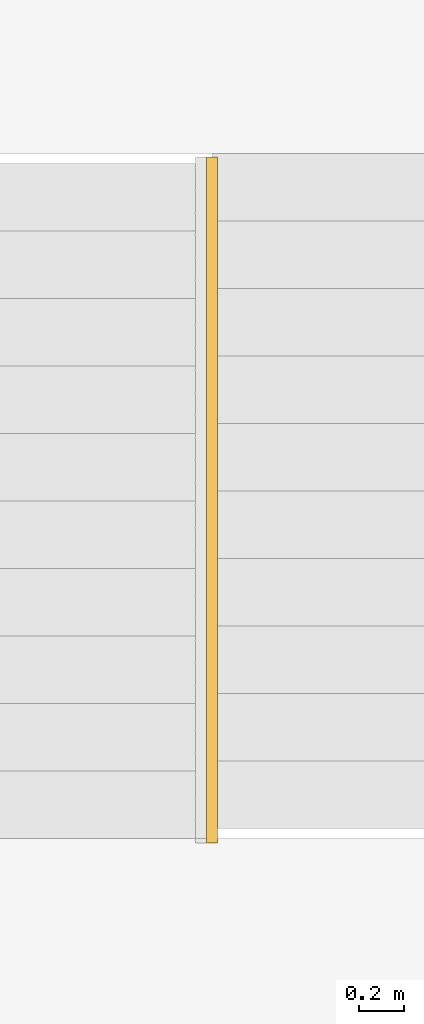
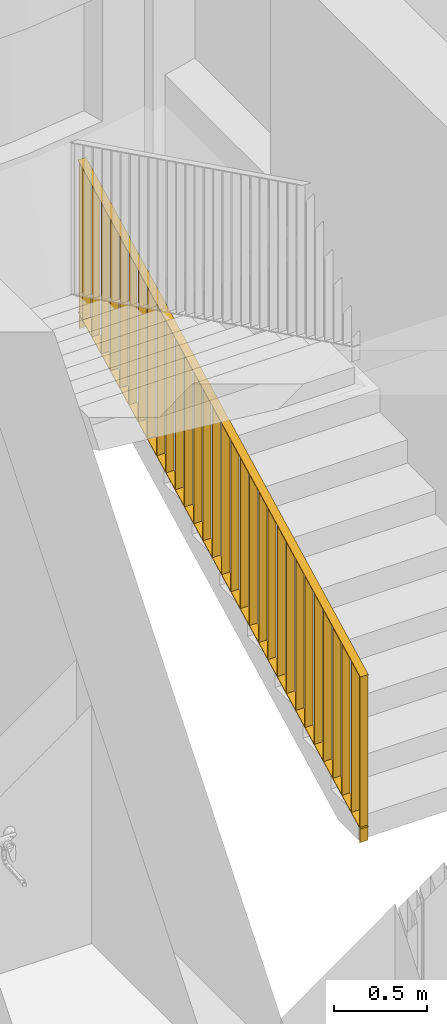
# One storey, part 22 of 46: 1 railing, 1 element without a shape of its own.
"""IFC2X3 building model written with IfcOpenShell, lengths in millimetres."""

from ifc_helpers import new_model, entity, si_unit, converted_unit, derived_unit, direction, frame, origin, place, context, subcontext, project, spatial, polyline, outline, extrude, material, element, aggregate, save


model = new_model("IFC2X3")

# Units and contexts
model_context = context("Model", 3, precision=0.01, world=origin(), true_north=direction((6.12303176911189e-17, 1.0)))
body_context = subcontext(model_context, "Body", "Model", "MODEL_VIEW")
ifc_project = project(units=[si_unit("LENGTHUNIT", "METRE", prefix="MILLI"), si_unit("AREAUNIT", "SQUARE_METRE"), si_unit("VOLUMEUNIT", "CUBIC_METRE"), converted_unit("PLANEANGLEUNIT", "DEGREE", entity("IfcRatioMeasure", 0.0174532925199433), si_unit("PLANEANGLEUNIT", "RADIAN"), dimensions=[0, 0, 0, 0, 0, 0, 0]), si_unit("MASSUNIT", "GRAM", prefix="KILO"), derived_unit("MASSDENSITYUNIT", [(si_unit("MASSUNIT", "GRAM", prefix="KILO"), 1), (si_unit("LENGTHUNIT", "METRE"), -3)]), si_unit("TIMEUNIT", "SECOND"), si_unit("FREQUENCYUNIT", "HERTZ"), si_unit("THERMODYNAMICTEMPERATUREUNIT", "DEGREE_CELSIUS"), derived_unit("THERMALTRANSMITTANCEUNIT", [(si_unit("MASSUNIT", "GRAM", prefix="KILO"), 1), (si_unit("THERMODYNAMICTEMPERATUREUNIT", "KELVIN"), -1), (si_unit("TIMEUNIT", "SECOND"), -3)]), derived_unit("VOLUMETRICFLOWRATEUNIT", [(si_unit("LENGTHUNIT", "METRE"), 3), (si_unit("TIMEUNIT", "SECOND"), -1)]), si_unit("ELECTRICCURRENTUNIT", "AMPERE"), si_unit("ELECTRICVOLTAGEUNIT", "VOLT"), si_unit("POWERUNIT", "WATT"), si_unit("FORCEUNIT", "NEWTON", prefix="KILO"), si_unit("ILLUMINANCEUNIT", "LUX"), si_unit("LUMINOUSFLUXUNIT", "LUMEN"), si_unit("LUMINOUSINTENSITYUNIT", "CANDELA"), derived_unit("USERDEFINED", [(si_unit("MASSUNIT", "GRAM", prefix="KILO"), -1), (si_unit("LENGTHUNIT", "METRE"), -2), (si_unit("TIMEUNIT", "SECOND"), 3), (si_unit("LUMINOUSFLUXUNIT", "LUMEN"), 1)]), derived_unit("LINEARVELOCITYUNIT", [(si_unit("LENGTHUNIT", "METRE"), 1), (si_unit("TIMEUNIT", "SECOND"), -1)]), si_unit("PRESSUREUNIT", "PASCAL"), derived_unit("USERDEFINED", [(si_unit("LENGTHUNIT", "METRE"), -2), (si_unit("MASSUNIT", "GRAM", prefix="KILO"), 1), (si_unit("TIMEUNIT", "SECOND"), -2)]), derived_unit("LINEARFORCEUNIT", [(si_unit("MASSUNIT", "GRAM", prefix="KILO"), 1), (si_unit("LENGTHUNIT", "METRE"), 1), (si_unit("TIMEUNIT", "SECOND"), -2), (si_unit("LENGTHUNIT", "METRE"), -1)]), derived_unit("PLANARFORCEUNIT", [(si_unit("MASSUNIT", "GRAM", prefix="KILO"), 1), (si_unit("LENGTHUNIT", "METRE"), 1), (si_unit("TIMEUNIT", "SECOND"), -2), (si_unit("LENGTHUNIT", "METRE"), -2)])], contexts=[model_context])

# Site, building, storey
site_placement = place(None, origin())
site = spatial("IfcSite", under=ifc_project, at=site_placement, Name="Default", CompositionType="ELEMENT")
building_placement = place(site_placement, origin())
building = spatial("IfcBuilding", under=site, at=building_placement, Name="SMA ARH", CompositionType="ELEMENT")
storey_placement = place(building_placement, origin())
storey = spatial("IfcBuildingStorey", under=building, at=storey_placement, Name="1 Korrus", CompositionType="ELEMENT", Elevation=0.0)

# Stair, railing
stair_placement = place(storey_placement, origin())
stair = element("IfcStair", 1, at=stair_placement, inside=storey, Name="Cast-In-Place Stair:Stair", ObjectType="Cast-In-Place Stair:Cast-In-Place Stair", ShapeType="STRAIGHT_RUN_STAIR")
ifc_material = material(Name="Metal - Stainless Steel,Polished")
railing_placement = place(stair_placement, origin())
railing = element("IfcRailing", 2, at=railing_placement, material=ifc_material, Name="Railing:1000mm_sisearh railing offsetiga", ObjectType="Railing:1000mm_sisearh railing offsetiga", PredefinedType="NOTDEFINED", context=body_context, shape_type="SweptSolid", body=[
    extrude(outline(polyline([(-495.910929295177, -2.5000000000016), (498.471535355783, -2.5000000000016), (495.910929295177, 2.49999999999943), (-498.471535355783, 2.49999999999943), (-495.910929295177, -2.5000000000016)])), frame((10230.0, 12776.2940350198, 2064.56605631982), z_axis=(1.0, 0.0, 0.0), x_axis=(0.0, 0.0, 1.0)), (0.0, 0.0, 1.0), 50.0000000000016),
    extrude(outline(polyline([(-495.910929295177, -2.49999999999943), (498.471535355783, -2.49999999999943), (495.910929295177, 2.5000000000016), (-498.471535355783, 2.5000000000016), (-495.910929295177, -2.49999999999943)])), frame((10230.0, 12676.2940350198, 2013.3539351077), z_axis=(1.0, 0.0, 0.0), x_axis=(0.0, 0.0, 1.0)), (0.0, 0.0, 1.0), 50.0000000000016),
    extrude(outline(polyline([(-495.910929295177, -2.5000000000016), (498.471535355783, -2.5000000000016), (495.910929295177, 2.49999999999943), (-498.471535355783, 2.49999999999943), (-495.910929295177, -2.5000000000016)])), frame((10230.0, 12576.2940350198, 1962.14181389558), z_axis=(1.0, 0.0, 0.0), x_axis=(0.0, 0.0, 1.0)), (0.0, 0.0, 1.0), 50.0000000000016),
    extrude(outline(polyline([(-495.910929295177, -2.49999999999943), (498.471535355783, -2.49999999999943), (495.910929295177, 2.5000000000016), (-498.471535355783, 2.5000000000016), (-495.910929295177, -2.49999999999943)])), frame((10230.0, 12476.2940350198, 1910.92969268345), z_axis=(1.0, 0.0, 0.0), x_axis=(0.0, 0.0, 1.0)), (0.0, 0.0, 1.0), 50.0000000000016),
    extrude(outline(polyline([(-495.910929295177, -2.5000000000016), (498.471535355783, -2.5000000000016), (495.910929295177, 2.49999999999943), (-498.471535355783, 2.49999999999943), (-495.910929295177, -2.5000000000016)])), frame((10230.0, 12376.2940350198, 1859.71757147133), z_axis=(1.0, 0.0, 0.0), x_axis=(0.0, 0.0, 1.0)), (0.0, 0.0, 1.0), 50.0000000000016),
    extrude(outline(polyline([(-495.910929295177, -2.5000000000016), (498.471535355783, -2.5000000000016), (495.910929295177, 2.49999999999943), (-498.471535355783, 2.49999999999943), (-495.910929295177, -2.5000000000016)])), frame((10230.0, 12276.2940350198, 1808.50545025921), z_axis=(1.0, 0.0, 0.0), x_axis=(0.0, 0.0, 1.0)), (0.0, 0.0, 1.0), 50.0000000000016),
    extrude(outline(polyline([(-495.910929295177, -2.49999999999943), (498.471535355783, -2.49999999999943), (495.910929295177, 2.5000000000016), (-498.471535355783, 2.5000000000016), (-495.910929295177, -2.49999999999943)])), frame((10230.0, 12176.2940350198, 1757.29332904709), z_axis=(1.0, 0.0, 0.0), x_axis=(0.0, 0.0, 1.0)), (0.0, 0.0, 1.0), 50.0000000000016),
    extrude(outline(polyline([(-495.910929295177, -2.5000000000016), (498.471535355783, -2.5000000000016), (495.910929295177, 2.49999999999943), (-498.471535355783, 2.49999999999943), (-495.910929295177, -2.5000000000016)])), frame((10230.0, 12076.2940350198, 1706.08120783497), z_axis=(1.0, 0.0, 0.0), x_axis=(0.0, 0.0, 1.0)), (0.0, 0.0, 1.0), 50.0000000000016),
    extrude(outline(polyline([(-495.910929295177, -2.5000000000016), (498.471535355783, -2.5000000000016), (495.910929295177, 2.49999999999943), (-498.471535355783, 2.49999999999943), (-495.910929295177, -2.5000000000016)])), frame((10230.0, 11976.2940350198, 1654.86908662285), z_axis=(1.0, 0.0, 0.0), x_axis=(0.0, 0.0, 1.0)), (0.0, 0.0, 1.0), 50.0000000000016),
    extrude(outline(polyline([(-495.910929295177, -2.49999999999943), (498.471535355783, -2.49999999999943), (495.910929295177, 2.5000000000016), (-498.471535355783, 2.5000000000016), (-495.910929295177, -2.49999999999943)])), frame((10230.0, 11876.2940350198, 1603.65696541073), z_axis=(1.0, 0.0, 0.0), x_axis=(0.0, 0.0, 1.0)), (0.0, 0.0, 1.0), 50.0000000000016),
    extrude(outline(polyline([(-495.910929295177, -2.5000000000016), (498.471535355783, -2.5000000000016), (495.910929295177, 2.49999999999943), (-498.471535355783, 2.49999999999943), (-495.910929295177, -2.5000000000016)])), frame((10230.0, 11776.2940350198, 1552.44484419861), z_axis=(1.0, 0.0, 0.0), x_axis=(0.0, 0.0, 1.0)), (0.0, 0.0, 1.0), 50.0000000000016),
    extrude(outline(polyline([(-495.910929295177, -2.5000000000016), (498.471535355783, -2.5000000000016), (495.910929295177, 2.49999999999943), (-498.471535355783, 2.49999999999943), (-495.910929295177, -2.5000000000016)])), frame((10230.0, 11676.2940350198, 1501.23272298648), z_axis=(1.0, 0.0, 0.0), x_axis=(0.0, 0.0, 1.0)), (0.0, 0.0, 1.0), 50.0000000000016),
    extrude(outline(polyline([(-495.910929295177, -2.5000000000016), (498.471535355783, -2.5000000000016), (495.910929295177, 2.49999999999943), (-498.471535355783, 2.49999999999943), (-495.910929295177, -2.5000000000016)])), frame((10230.0, 11576.2940350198, 1450.02060177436), z_axis=(1.0, 0.0, 0.0), x_axis=(0.0, 0.0, 1.0)), (0.0, 0.0, 1.0), 50.0000000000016),
    extrude(outline(polyline([(-495.910929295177, -2.5000000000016), (498.471535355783, -2.5000000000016), (495.910929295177, 2.49999999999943), (-498.471535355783, 2.49999999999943), (-495.910929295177, -2.5000000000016)])), frame((10230.0, 11476.2940350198, 1398.80848056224), z_axis=(1.0, 0.0, 0.0), x_axis=(0.0, 0.0, 1.0)), (0.0, 0.0, 1.0), 50.0000000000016),
    extrude(outline(polyline([(-495.910929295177, -2.49999999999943), (498.471535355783, -2.49999999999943), (495.910929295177, 2.5000000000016), (-498.471535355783, 2.5000000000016), (-495.910929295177, -2.49999999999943)])), frame((10230.0, 11376.2940350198, 1347.59635935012), z_axis=(1.0, 0.0, 0.0), x_axis=(0.0, 0.0, 1.0)), (0.0, 0.0, 1.0), 50.0000000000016),
    extrude(outline(polyline([(-495.910929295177, -2.5000000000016), (498.471535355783, -2.5000000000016), (495.910929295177, 2.49999999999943), (-498.471535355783, 2.49999999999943), (-495.910929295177, -2.5000000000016)])), frame((10230.0, 11276.2940350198, 1296.384238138), z_axis=(1.0, 0.0, 0.0), x_axis=(0.0, 0.0, 1.0)), (0.0, 0.0, 1.0), 50.0000000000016),
    extrude(outline(polyline([(-495.910929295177, -2.5000000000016), (498.471535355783, -2.5000000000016), (495.910929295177, 2.49999999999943), (-498.471535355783, 2.49999999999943), (-495.910929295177, -2.5000000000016)])), frame((10230.0, 11176.2940350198, 1245.17211692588), z_axis=(1.0, 0.0, 0.0), x_axis=(0.0, 0.0, 1.0)), (0.0, 0.0, 1.0), 50.0000000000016),
    extrude(outline(polyline([(-495.910929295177, -2.49999999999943), (498.471535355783, -2.49999999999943), (495.910929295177, 2.5000000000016), (-498.471535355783, 2.5000000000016), (-495.910929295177, -2.49999999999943)])), frame((10230.0, 11076.2940350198, 1193.95999571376), z_axis=(1.0, 0.0, 0.0), x_axis=(0.0, 0.0, 1.0)), (0.0, 0.0, 1.0), 50.0000000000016),
    extrude(outline(polyline([(-495.910929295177, -2.5000000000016), (498.471535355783, -2.5000000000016), (495.910929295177, 2.49999999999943), (-498.471535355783, 2.49999999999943), (-495.910929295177, -2.5000000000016)])), frame((10230.0, 10976.2940350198, 1142.74787450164), z_axis=(1.0, 0.0, 0.0), x_axis=(0.0, 0.0, 1.0)), (0.0, 0.0, 1.0), 50.0000000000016),
    extrude(outline(polyline([(-495.910929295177, -2.49999999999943), (498.471535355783, -2.49999999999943), (495.910929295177, 2.5000000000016), (-498.471535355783, 2.5000000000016), (-495.910929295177, -2.49999999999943)])), frame((10230.0, 10876.2940350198, 1091.53575328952), z_axis=(1.0, 0.0, 0.0), x_axis=(0.0, 0.0, 1.0)), (0.0, 0.0, 1.0), 50.0000000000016),
    extrude(outline(polyline([(-495.910929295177, -2.5000000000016), (498.471535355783, -2.5000000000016), (495.910929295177, 2.49999999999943), (-498.471535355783, 2.49999999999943), (-495.910929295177, -2.5000000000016)])), frame((10230.0, 10776.2940350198, 1040.32363207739), z_axis=(1.0, 0.0, 0.0), x_axis=(0.0, 0.0, 1.0)), (0.0, 0.0, 1.0), 50.0000000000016),
    extrude(outline(polyline([(-495.910929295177, -2.5000000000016), (498.471535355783, -2.5000000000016), (495.910929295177, 2.49999999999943), (-498.471535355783, 2.49999999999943), (-495.910929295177, -2.5000000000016)])), frame((10230.0, 10676.2940350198, 989.111510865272), z_axis=(1.0, 0.0, 0.0), x_axis=(0.0, 0.0, 1.0)), (0.0, 0.0, 1.0), 50.0000000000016),
    extrude(outline(polyline([(-495.910929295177, -2.49999999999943), (498.471535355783, -2.49999999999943), (495.910929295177, 2.5000000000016), (-498.471535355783, 2.5000000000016), (-495.910929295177, -2.49999999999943)])), frame((10230.0, 10576.2940350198, 937.899389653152), z_axis=(1.0, 0.0, 0.0), x_axis=(0.0, 0.0, 1.0)), (0.0, 0.0, 1.0), 50.0000000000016),
    extrude(outline(polyline([(-495.910929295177, -2.5000000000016), (498.471535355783, -2.5000000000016), (495.910929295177, 2.49999999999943), (-498.471535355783, 2.49999999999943), (-495.910929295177, -2.5000000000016)])), frame((10230.0, 10476.2940350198, 886.68726844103), z_axis=(1.0, 0.0, 0.0), x_axis=(0.0, 0.0, 1.0)), (0.0, 0.0, 1.0), 50.0000000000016),
    extrude(outline(polyline([(-495.910929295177, -2.5000000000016), (498.471535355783, -2.5000000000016), (495.910929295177, 2.49999999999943), (-498.471535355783, 2.49999999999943), (-495.910929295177, -2.5000000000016)])), frame((10230.0, 10376.2940350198, 835.475147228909), z_axis=(1.0, 0.0, 0.0), x_axis=(0.0, 0.0, 1.0)), (0.0, 0.0, 1.0), 50.0000000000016),
    extrude(outline(polyline([(-495.910929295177, -2.49999999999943), (498.471535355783, -2.49999999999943), (495.910929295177, 2.5000000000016), (-498.471535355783, 2.5000000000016), (-495.910929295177, -2.49999999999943)])), frame((10230.0, 10276.2940350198, 784.263026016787), z_axis=(1.0, 0.0, 0.0), x_axis=(0.0, 0.0, 1.0)), (0.0, 0.0, 1.0), 50.0000000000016),
    extrude(outline(polyline([(-495.910929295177, -2.5000000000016), (498.471535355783, -2.5000000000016), (495.910929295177, 2.49999999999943), (-498.471535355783, 2.49999999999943), (-495.910929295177, -2.5000000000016)])), frame((10230.0, 10176.2940350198, 733.050904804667), z_axis=(1.0, 0.0, 0.0), x_axis=(0.0, 0.0, 1.0)), (0.0, 0.0, 1.0), 50.0000000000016),
    extrude(outline(polyline([(-495.910929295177, -2.49999999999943), (498.471535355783, -2.49999999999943), (495.910929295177, 2.5000000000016), (-498.471535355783, 2.5000000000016), (-495.910929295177, -2.49999999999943)])), frame((10230.0, 10076.2940350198, 681.838783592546), z_axis=(1.0, 0.0, 0.0), x_axis=(0.0, 0.0, 1.0)), (0.0, 0.0, 1.0), 50.0000000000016),
    extrude(outline(polyline([(-495.910929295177, -2.5000000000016), (498.471535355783, -2.5000000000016), (495.910929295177, 2.49999999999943), (-498.471535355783, 2.49999999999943), (-495.910929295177, -2.5000000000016)])), frame((10230.0, 9976.29403501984, 630.626662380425), z_axis=(1.0, 0.0, 0.0), x_axis=(0.0, 0.0, 1.0)), (0.0, 0.0, 1.0), 50.0000000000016),
    extrude(outline(polyline([(-495.910929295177, -2.5000000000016), (498.471535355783, -2.5000000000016), (495.910929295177, 2.49999999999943), (-498.471535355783, 2.49999999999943), (-495.910929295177, -2.5000000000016)])), frame((10230.0, 9876.29403501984, 579.414541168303), z_axis=(1.0, 0.0, 0.0), x_axis=(0.0, 0.0, 1.0)), (0.0, 0.0, 1.0), 50.0000000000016),
    extrude(outline(polyline([(-545.910929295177, -2.49999999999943), (548.471535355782, -2.49999999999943), (545.910929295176, 2.5000000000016), (-548.471535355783, 2.5000000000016), (-545.910929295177, -2.49999999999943)])), frame((10230.0, 12813.4708868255, 2033.60511072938), z_axis=(1.0, 0.0, 0.0), x_axis=(0.0, 0.0, 1.0)), (0.0, 0.0, 1.0), 50.0000000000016),
    extrude(outline(polyline([(-545.910929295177, -2.5000000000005), (548.471535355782, -2.50000000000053), (545.910929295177, 2.49999999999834), (-548.471535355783, 2.50000000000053), (-545.910929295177, -2.5000000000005)])), frame((10230.0, 9786.29403501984, 483.323632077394), z_axis=(1.0, 0.0, 0.0), x_axis=(0.0, 0.0, 1.0)), (0.0, 0.0, 1.0), 50.0000000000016),
    extrude(outline(polyline([(-1713.04267100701, -2.50000000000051), (1710.48206494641, -2.50000000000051), (1713.04267100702, 2.49999999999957), (-1710.48206494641, 2.49999999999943), (-1713.04267100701, -2.50000000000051)])), frame((10229.5598309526, 11299.8824609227, 808.464371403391), z_axis=(1.0, 0.0, 0.0), x_axis=(0.0, 0.890070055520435, 0.45582375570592)), (0.0, 0.0, 1.0), 49.9999999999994),
    extrude(outline(polyline([(-1713.04267100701, -2.50000000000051), (1710.48206494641, -2.50000000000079), (1713.04267100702, 2.49999999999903), (-1710.48206494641, 2.49999999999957), (-1713.04267100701, -2.50000000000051)])), frame((10229.5598309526, 11299.8824609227, 1808.46437140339), z_axis=(1.0, 0.0, 0.0), x_axis=(0.0, 0.890070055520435, 0.455823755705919)), (0.0, 0.0, 1.0), 49.9999999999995),
])
aggregate(stair, [railing])

save(model, "model.ifc")
